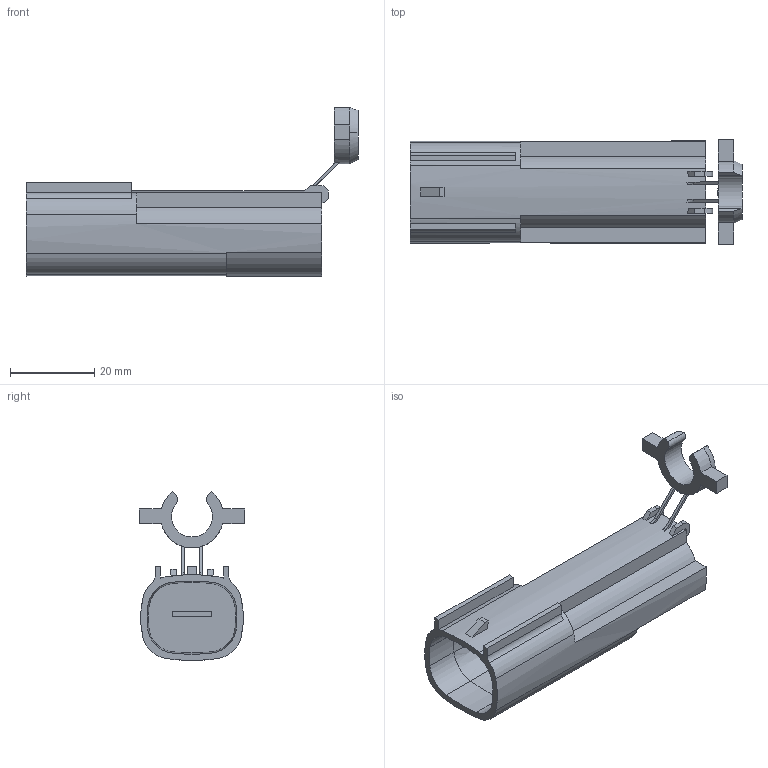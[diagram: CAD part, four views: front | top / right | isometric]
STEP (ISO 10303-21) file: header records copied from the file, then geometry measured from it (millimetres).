
FILE_DESCRIPTION(('CATIA V5 STEP Exchange'),'2;1');
FILE_NAME('N:\C-DAM_MyDesk\ENV\900093\6188-4702.stp','2013-06-14T01:34:27+00:00',('none'),('none'),'CATIA Version 5 Release 20 SP 4 (IN-10)','CATIA V5 STEP AP203','none');
FILE_SCHEMA(('CONFIG_CONTROL_DESIGN'));
Length unit declared in the file: millimetre
Products named in the file (1): 6188-4702
Bounding box: 79 x 25 x 40.21 mm (x, y, z)
Volume: 19913.9 mm3; surface area: 8970.7 mm2
Topology: 1 solids, 1 shells, 115 faces, 310 edges, 203 vertices
Faces by surface type: plane 71, cylinder 31, cone 11, bspline 2
Entity records: 3533 total; most frequent: CARTESIAN_POINT 768, ORIENTED_EDGE 620, DIRECTION 455, EDGE_CURVE 310, VERTEX_POINT 203, AXIS2_PLACEMENT_3D 188, VECTOR 180, LINE 180
